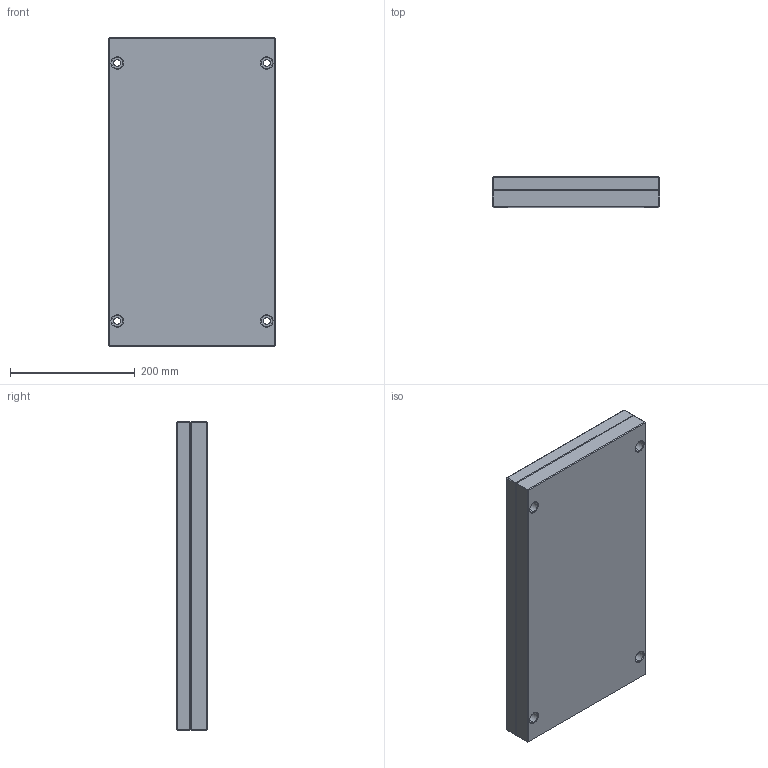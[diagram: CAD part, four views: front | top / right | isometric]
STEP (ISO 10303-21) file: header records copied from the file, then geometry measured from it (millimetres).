
FILE_DESCRIPTION (( 'STEP AP214' ), '1' );
FILE_NAME ('CPE-396x496.STEP', '2020-04-06T14:56:18', ( 'August' ), ( '' ), 'SwSTEP 2.0', 'SolidWorks 2018', '' );
FILE_SCHEMA (( 'AUTOMOTIVE_DESIGN' ));
Length unit declared in the file: millimetre
Products named in the file (1): CPE-396x496
Bounding box: 268 x 49 x 496 mm (x, y, z)
Volume: 6483220.9 mm3; surface area: 609076.1 mm2
Topology: 2 solids, 2 shells, 96 faces, 200 edges, 112 vertices
Faces by surface type: plane 56, cylinder 24, cone 16
Entity records: 2551 total; most frequent: DIRECTION 458, CARTESIAN_POINT 409, ORIENTED_EDGE 400, EDGE_CURVE 200, AXIS2_PLACEMENT_3D 161, LINE 136, VECTOR 136, EDGE_LOOP 116
